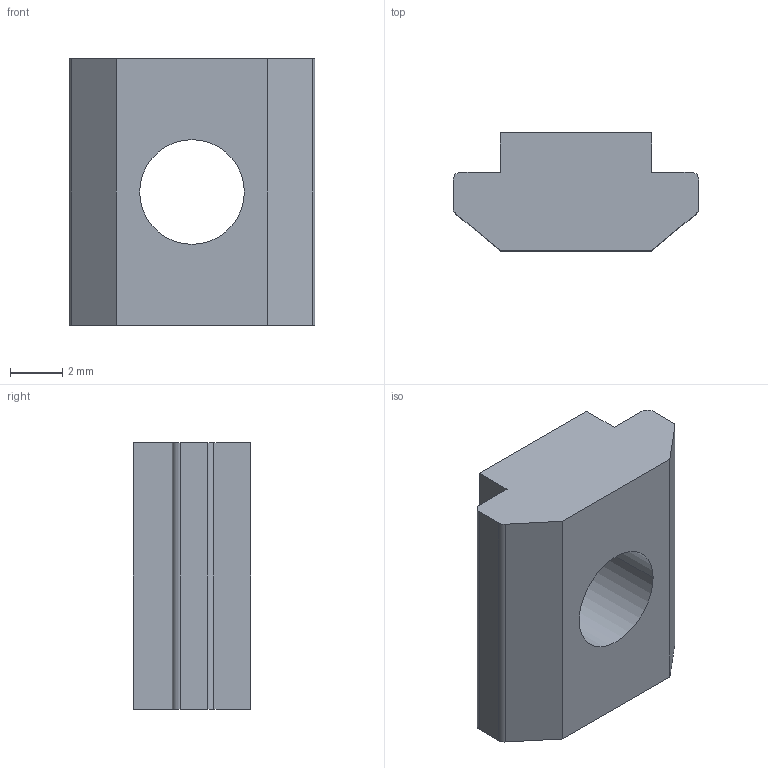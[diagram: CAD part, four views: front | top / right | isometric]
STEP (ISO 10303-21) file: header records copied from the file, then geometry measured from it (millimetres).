
FILE_DESCRIPTION (( 'STEP AP214' ), '1' );
FILE_NAME ('SNSD.30.52.26. Ñóõàðü ïàçîâûé Ì5, ïàç 6(H34).STEP', '2015-01-12T13:26:30', ( 'XTreme.ws' ), ( 'XTreme.ws' ), 'SwSTEP 2.0', 'SolidWorks 2014', '' );
FILE_SCHEMA (( 'AUTOMOTIVE_DESIGN' ));
Length unit declared in the file: millimetre
Products named in the file (2): SNSD.30.52.26. Ñóõàðü ïàçîâûé Ì5, ïàç 6(H34)
Bounding box: 9.4 x 4.5 x 10.2 mm (x, y, z)
Volume: 291.4 mm3; surface area: 359 mm2
Topology: 1 solids, 1 shells, 20 faces, 52 edges, 34 vertices
Faces by surface type: plane 12, cylinder 6, cone 2
Entity records: 689 total; most frequent: DIRECTION 110, CARTESIAN_POINT 108, ORIENTED_EDGE 104, EDGE_CURVE 52, VECTOR 38, LINE 38, AXIS2_PLACEMENT_3D 36, VERTEX_POINT 34
